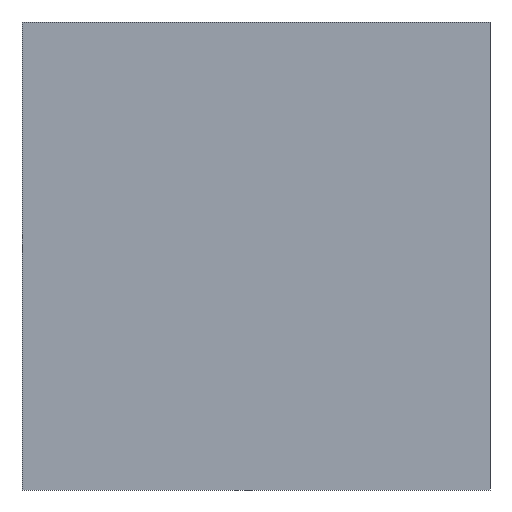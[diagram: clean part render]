
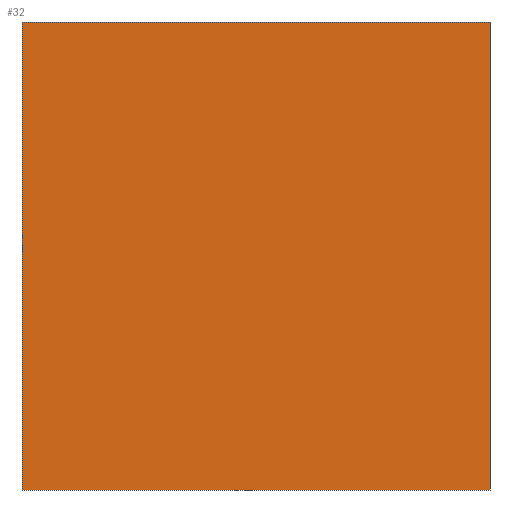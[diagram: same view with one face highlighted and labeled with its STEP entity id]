
A CAD part, front view. The second image highlights one B-rep face of the part: STEP entity #32.
In plain terms, the highlighted planar face has unit normal (0, -1, 0).
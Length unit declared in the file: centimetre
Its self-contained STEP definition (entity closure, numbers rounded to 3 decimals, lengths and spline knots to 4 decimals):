
#32 = ADVANCED_FACE ( 'NONE', ( #149 ), #385, .F. ) ;
#98 = LINE ( 'NONE', #486, #621 ) ;
#114 = CARTESIAN_POINT ( 'NONE',  ( 0., 0., 1000. ) ) ;
#131 = EDGE_CURVE ( 'NONE', #238, #753, #710, .T. ) ;
#137 = CARTESIAN_POINT ( 'NONE',  ( 1000., 0., 1000. ) ) ;
#149 = FACE_OUTER_BOUND ( 'NONE', #728, .T. ) ;
#204 = LINE ( 'NONE', #366, #583 ) ;
#212 = EDGE_CURVE ( 'NONE', #753, #400, #282, .T. ) ;
#226 = DIRECTION ( 'NONE',  ( 1., 0., 0. ) ) ;
#238 = VERTEX_POINT ( 'NONE', #725 ) ;
#260 = VERTEX_POINT ( 'NONE', #137 ) ;
#263 = CARTESIAN_POINT ( 'NONE',  ( 1000., 0., 0. ) ) ;
#282 = LINE ( 'NONE', #762, #657 ) ;
#297 = DIRECTION ( 'NONE',  ( 0., 0., -1. ) ) ;
#313 = DIRECTION ( 'NONE',  ( 1., 0., 0. ) ) ;
#334 = ORIENTED_EDGE ( 'NONE', *, *, #565, .F. ) ;
#366 = CARTESIAN_POINT ( 'NONE',  ( 1000., 0., 1000. ) ) ;
#385 = PLANE ( 'NONE',  #625 ) ;
#400 = VERTEX_POINT ( 'NONE', #263 ) ;
#442 = DIRECTION ( 'NONE',  ( 0., 1., 0. ) ) ;
#446 = CARTESIAN_POINT ( 'NONE',  ( 0., 0., 0. ) ) ;
#471 = ORIENTED_EDGE ( 'NONE', *, *, #597, .F. ) ;
#482 = ORIENTED_EDGE ( 'NONE', *, *, #131, .T. ) ;
#486 = CARTESIAN_POINT ( 'NONE',  ( 0., 0., 1000. ) ) ;
#502 = ORIENTED_EDGE ( 'NONE', *, *, #212, .T. ) ;
#565 = EDGE_CURVE ( 'NONE', #238, #260, #98, .T. ) ;
#583 = VECTOR ( 'NONE', #613, 100. ) ;
#597 = EDGE_CURVE ( 'NONE', #260, #400, #204, .T. ) ;
#613 = DIRECTION ( 'NONE',  ( 0., 0., -1. ) ) ;
#621 = VECTOR ( 'NONE', #313, 100. ) ;
#625 = AXIS2_PLACEMENT_3D ( 'NONE', #750, #442, #684 ) ;
#657 = VECTOR ( 'NONE', #226, 100. ) ;
#684 = DIRECTION ( 'NONE',  ( 0., 0., 1. ) ) ;
#690 = VECTOR ( 'NONE', #297, 100. ) ;
#710 = LINE ( 'NONE', #114, #690 ) ;
#725 = CARTESIAN_POINT ( 'NONE',  ( 0., 0., 1000. ) ) ;
#728 = EDGE_LOOP ( 'NONE', ( #502, #471, #334, #482 ) ) ;
#750 = CARTESIAN_POINT ( 'NONE',  ( 0., 0., 1000. ) ) ;
#753 = VERTEX_POINT ( 'NONE', #446 ) ;
#762 = CARTESIAN_POINT ( 'NONE',  ( 0., 0., 0. ) ) ;
